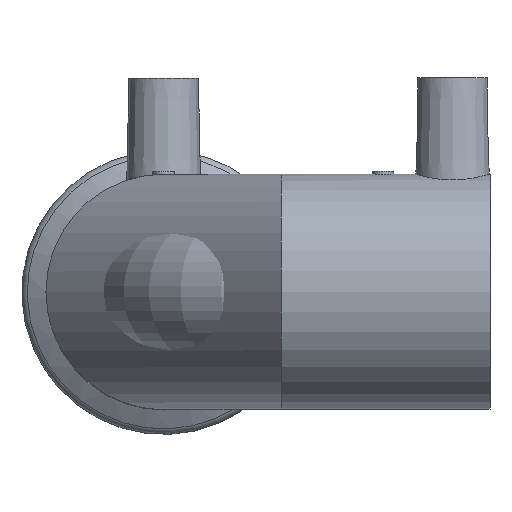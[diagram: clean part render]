
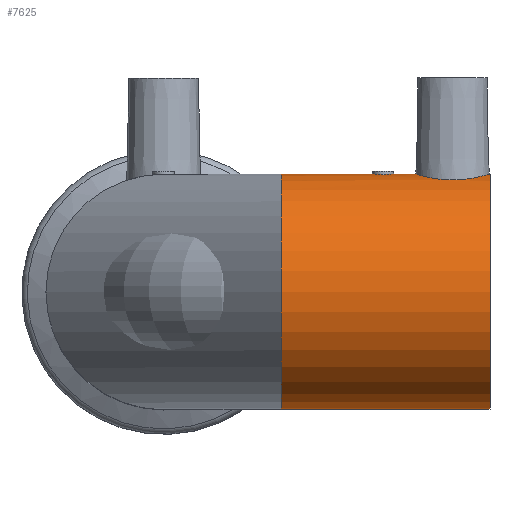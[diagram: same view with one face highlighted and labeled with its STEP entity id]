
A CAD part, top view. The second image highlights one B-rep face of the part: STEP entity #7625.
In plain terms, the highlighted cylindrical face has radius 22 mm (diameter 44 mm), a full revolution.
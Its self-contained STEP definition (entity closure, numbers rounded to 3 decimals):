
#832=CIRCLE('',#9782,22.);
#833=CIRCLE('',#9783,22.);
#1167=ORIENTED_EDGE('',*,*,#3643,.T.);
#1168=ORIENTED_EDGE('',*,*,#3644,.T.);
#1169=ORIENTED_EDGE('',*,*,#3645,.F.);
#1170=ORIENTED_EDGE('',*,*,#3646,.F.);
#3643=EDGE_CURVE('',#4881,#4881,#5703,.T.);
#3644=EDGE_CURVE('',#4882,#4882,#832,.F.);
#3645=EDGE_CURVE('',#4883,#4883,#833,.F.);
#3646=EDGE_CURVE('',#4884,#4884,#5704,.T.);
#4881=VERTEX_POINT('',#12726);
#4882=VERTEX_POINT('',#12728);
#4883=VERTEX_POINT('',#12730);
#4884=VERTEX_POINT('',#12750);
#5703=B_SPLINE_CURVE_WITH_KNOTS('',3,(#12715,#12716,#12717,#12718,#12719,
#12720,#12721,#12722,#12723,#12724,#12725),.UNSPECIFIED.,.T.,.F.,(1,1,1,
1,1,1,1,1,1,1,1,1,1,1,1),(-0.005,-0.003,-0.002,
0.,0.002,0.003,0.005,0.006,
0.008,0.009,0.011,0.013,
0.014,0.016,0.017),.UNSPECIFIED.);
#5704=B_SPLINE_CURVE_WITH_KNOTS('',3,(#12731,#12732,#12733,#12734,#12735,
#12736,#12737,#12738,#12739,#12740,#12741,#12742,#12743,#12744,#12745,#12746,
#12747,#12748,#12749),.UNSPECIFIED.,.T.,.F.,(1,1,1,1,1,1,1,1,1,1,1,1,1,
1,1,1,1,1,1,1,1,1,1),(-0.008,-0.005,-0.003,
0.,0.003,0.005,0.008,0.011,
0.014,0.016,0.019,0.022,
0.024,0.027,0.03,0.033,
0.035,0.038,0.041,0.043,
0.046,0.049,0.051),.UNSPECIFIED.);
#6275=EDGE_LOOP('',(#1167));
#6276=EDGE_LOOP('',(#1168));
#6277=EDGE_LOOP('',(#1169));
#6278=EDGE_LOOP('',(#1170));
#6841=FACE_BOUND('',#6275,.T.);
#6842=FACE_BOUND('',#6276,.T.);
#6843=FACE_BOUND('',#6277,.T.);
#6844=FACE_BOUND('',#6278,.T.);
#7407=CYLINDRICAL_SURFACE('',#9781,22.);
#7625=ADVANCED_FACE('',(#6841,#6842,#6843,#6844),#7407,.T.);
#9781=AXIS2_PLACEMENT_3D('',#12714,#10697,#10698);
#9782=AXIS2_PLACEMENT_3D('',#12727,#10699,#10700);
#9783=AXIS2_PLACEMENT_3D('',#12729,#10701,#10702);
#10697=DIRECTION('',(-1.,0.,0.));
#10698=DIRECTION('',(0.,0.,1.));
#10699=DIRECTION('',(-1.,0.,0.));
#10700=DIRECTION('',(0.,0.,-1.));
#10701=DIRECTION('',(-1.,0.,0.));
#10702=DIRECTION('',(0.,0.,-1.));
#12714=CARTESIAN_POINT('',(61.,0.,61.));
#12715=CARTESIAN_POINT('',(39.431,21.955,59.434));
#12716=CARTESIAN_POINT('',(41.,21.886,58.783));
#12717=CARTESIAN_POINT('',(42.567,21.955,59.434));
#12718=CARTESIAN_POINT('',(43.216,22.023,60.998));
#12719=CARTESIAN_POINT('',(42.568,21.955,62.567));
#12720=CARTESIAN_POINT('',(41.,21.886,63.216));
#12721=CARTESIAN_POINT('',(39.435,21.954,62.569));
#12722=CARTESIAN_POINT('',(38.784,22.023,61.002));
#12723=CARTESIAN_POINT('',(39.431,21.955,59.434));
#12724=CARTESIAN_POINT('',(41.,21.886,58.783));
#12725=CARTESIAN_POINT('',(42.567,21.955,59.434));
#12726=CARTESIAN_POINT('',(41.,21.909,59.));
#12727=CARTESIAN_POINT('',(22.,0.,61.));
#12728=CARTESIAN_POINT('',(22.,0.,39.));
#12729=CARTESIAN_POINT('',(61.,0.,61.));
#12730=CARTESIAN_POINT('',(61.,0.,39.));
#12731=CARTESIAN_POINT('',(51.443,20.995,54.402));
#12732=CARTESIAN_POINT('',(49.129,21.426,55.884));
#12733=CARTESIAN_POINT('',(47.555,21.861,58.126));
#12734=CARTESIAN_POINT('',(46.946,22.058,60.828));
#12735=CARTESIAN_POINT('',(47.424,21.902,63.56));
#12736=CARTESIAN_POINT('',(48.892,21.485,65.876));
#12737=CARTESIAN_POINT('',(51.121,21.04,67.461));
#12738=CARTESIAN_POINT('',(53.825,20.828,68.08));
#12739=CARTESIAN_POINT('',(56.561,20.996,67.596));
#12740=CARTESIAN_POINT('',(58.868,21.426,66.117));
#12741=CARTESIAN_POINT('',(60.443,21.86,63.879));
#12742=CARTESIAN_POINT('',(61.054,22.058,61.179));
#12743=CARTESIAN_POINT('',(60.577,21.902,58.44));
#12744=CARTESIAN_POINT('',(59.106,21.484,56.121));
#12745=CARTESIAN_POINT('',(56.875,21.039,54.538));
#12746=CARTESIAN_POINT('',(54.176,20.828,53.921));
#12747=CARTESIAN_POINT('',(51.443,20.995,54.402));
#12748=CARTESIAN_POINT('',(49.129,21.426,55.884));
#12749=CARTESIAN_POINT('',(47.555,21.861,58.126));
#12750=CARTESIAN_POINT('',(49.252,21.427,56.011));
